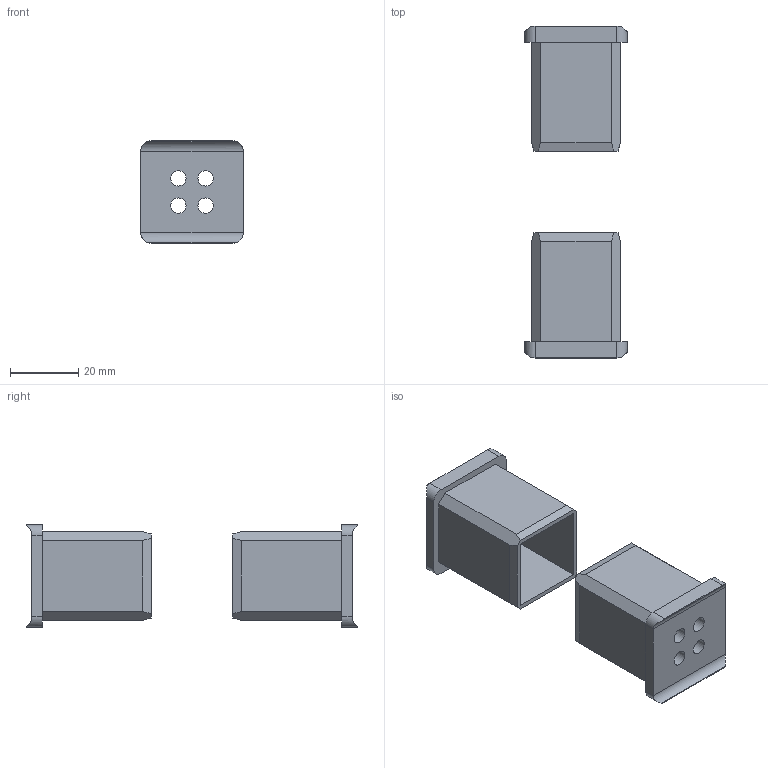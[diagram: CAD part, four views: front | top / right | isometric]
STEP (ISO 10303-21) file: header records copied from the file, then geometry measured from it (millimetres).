
FILE_DESCRIPTION (( 'STEP AP214' ), '1' );
FILE_NAME ('L15811 ENS.step', '2024-12-03T16:21:46', ( '' ), ( '' ), 'SwSTEP 2.0', 'SolidWorks 2023', '' );
FILE_SCHEMA (( 'AUTOMOTIVE_DESIGN' ));
Length unit declared in the file: millimetre
Products named in the file (2): L15811; L15811 ENS
Assembly tree (2 placements, depth 2):
  L15811 ENS
    L15811  x2
Bounding box: 30 x 97.31 x 30 mm (x, y, z)
Volume: 21495.3 mm3; surface area: 16029.8 mm2
Topology: 2 solids, 2 shells, 72 faces, 192 edges, 128 vertices
Faces by surface type: plane 52, cylinder 20
Full cylindrical faces by diameter (mm): 4.5 x8
Entity records: 1139 total; most frequent: CARTESIAN_POINT 201, DIRECTION 182, ORIENTED_EDGE 176, EDGE_CURVE 88, VECTOR 68, LINE 68, VERTEX_POINT 60, AXIS2_PLACEMENT_3D 57
